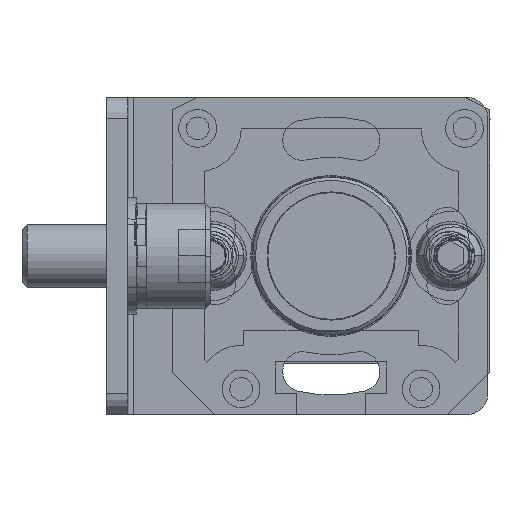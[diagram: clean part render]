
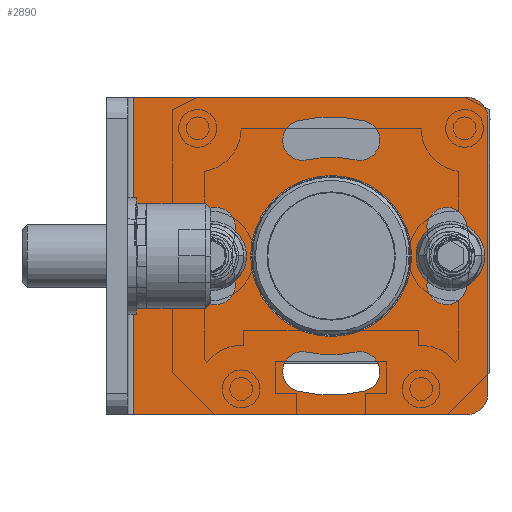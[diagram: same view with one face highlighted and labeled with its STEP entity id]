
A CAD part, front view. The second image highlights one B-rep face of the part: STEP entity #2890.
In plain terms, the highlighted planar face has unit normal (0, -1, 0).
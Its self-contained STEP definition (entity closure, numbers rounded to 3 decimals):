
#692=LINE('',#40670,#1452);
#697=LINE('',#40682,#1457);
#703=LINE('',#40698,#1463);
#707=LINE('',#40722,#1467);
#1452=VECTOR('',#13263,1.);
#1457=VECTOR('',#13272,1.);
#1463=VECTOR('',#13290,1.);
#1467=VECTOR('',#13320,1.);
#1962=PLANE('',#11082);
#2299=FACE_BOUND('',#4309,.T.);
#2300=FACE_BOUND('',#4310,.T.);
#2301=FACE_BOUND('',#4311,.T.);
#2302=FACE_BOUND('',#4312,.T.);
#2303=FACE_BOUND('',#4313,.T.);
#2304=FACE_BOUND('',#4314,.T.);
#2890=ADVANCED_FACE('',(#2299,#2300,#2301,#2302,#2303,#2304),#1962,.T.);
#4309=EDGE_LOOP('',(#6781,#6782,#6783,#6784));
#4310=EDGE_LOOP('',(#6785,#6786,#6787,#6788));
#4311=EDGE_LOOP('',(#6789,#6790,#6791,#6792));
#4312=EDGE_LOOP('',(#6793));
#4313=EDGE_LOOP('',(#6794,#6795,#6796,#6797));
#4314=EDGE_LOOP('',(#6798,#6799,#6800,#6801,#6802,#6803));
#6781=ORIENTED_EDGE('',*,*,#9603,.T.);
#6782=ORIENTED_EDGE('',*,*,#9604,.T.);
#6783=ORIENTED_EDGE('',*,*,#9542,.T.);
#6784=ORIENTED_EDGE('',*,*,#9605,.T.);
#6785=ORIENTED_EDGE('',*,*,#9606,.T.);
#6786=ORIENTED_EDGE('',*,*,#9546,.T.);
#6787=ORIENTED_EDGE('',*,*,#9607,.T.);
#6788=ORIENTED_EDGE('',*,*,#9550,.T.);
#6789=ORIENTED_EDGE('',*,*,#9608,.T.);
#6790=ORIENTED_EDGE('',*,*,#9554,.T.);
#6791=ORIENTED_EDGE('',*,*,#9609,.T.);
#6792=ORIENTED_EDGE('',*,*,#9558,.T.);
#6793=ORIENTED_EDGE('',*,*,#9563,.T.);
#6794=ORIENTED_EDGE('',*,*,#9610,.T.);
#6795=ORIENTED_EDGE('',*,*,#9611,.T.);
#6796=ORIENTED_EDGE('',*,*,#9612,.T.);
#6797=ORIENTED_EDGE('',*,*,#9564,.T.);
#6798=ORIENTED_EDGE('',*,*,#9613,.T.);
#6799=ORIENTED_EDGE('',*,*,#9614,.T.);
#6800=ORIENTED_EDGE('',*,*,#9598,.F.);
#6801=ORIENTED_EDGE('',*,*,#9584,.T.);
#6802=ORIENTED_EDGE('',*,*,#9590,.F.);
#6803=ORIENTED_EDGE('',*,*,#9615,.T.);
#8262=VERTEX_POINT('',#40580);
#8263=VERTEX_POINT('',#40581);
#8266=VERTEX_POINT('',#40589);
#8267=VERTEX_POINT('',#40590);
#8270=VERTEX_POINT('',#40598);
#8271=VERTEX_POINT('',#40599);
#8274=VERTEX_POINT('',#40607);
#8275=VERTEX_POINT('',#40608);
#8278=VERTEX_POINT('',#40616);
#8279=VERTEX_POINT('',#40617);
#8283=VERTEX_POINT('',#40627);
#8284=VERTEX_POINT('',#40630);
#8285=VERTEX_POINT('',#40631);
#8298=VERTEX_POINT('',#40667);
#8299=VERTEX_POINT('',#40669);
#8304=VERTEX_POINT('',#40681);
#8309=VERTEX_POINT('',#40699);
#8312=VERTEX_POINT('',#40709);
#8313=VERTEX_POINT('',#40710);
#8314=VERTEX_POINT('',#40718);
#8315=VERTEX_POINT('',#40720);
#8316=VERTEX_POINT('',#40723);
#8317=VERTEX_POINT('',#40724);
#9542=EDGE_CURVE('',#8262,#8263,#10244,.T.);
#9546=EDGE_CURVE('',#8266,#8267,#10246,.T.);
#9550=EDGE_CURVE('',#8270,#8271,#10248,.T.);
#9554=EDGE_CURVE('',#8274,#8275,#10250,.T.);
#9558=EDGE_CURVE('',#8278,#8279,#10252,.T.);
#9563=EDGE_CURVE('',#8283,#8283,#10255,.T.);
#9564=EDGE_CURVE('',#8284,#8285,#10256,.T.);
#9584=EDGE_CURVE('',#8298,#8299,#692,.T.);
#9590=EDGE_CURVE('',#8304,#8299,#697,.T.);
#9598=EDGE_CURVE('',#8298,#8309,#703,.T.);
#9603=EDGE_CURVE('',#8312,#8313,#10268,.T.);
#9604=EDGE_CURVE('',#8313,#8262,#10269,.T.);
#9605=EDGE_CURVE('',#8263,#8312,#10270,.T.);
#9606=EDGE_CURVE('',#8271,#8266,#10271,.T.);
#9607=EDGE_CURVE('',#8267,#8270,#10272,.T.);
#9608=EDGE_CURVE('',#8279,#8274,#10273,.T.);
#9609=EDGE_CURVE('',#8275,#8278,#10274,.T.);
#9610=EDGE_CURVE('',#8285,#8314,#10275,.T.);
#9611=EDGE_CURVE('',#8314,#8315,#10276,.T.);
#9612=EDGE_CURVE('',#8315,#8284,#10277,.T.);
#9613=EDGE_CURVE('',#8316,#8317,#707,.T.);
#9614=EDGE_CURVE('',#8317,#8309,#10278,.T.);
#9615=EDGE_CURVE('',#8304,#8316,#10279,.T.);
#10244=CIRCLE('',#11028,1.9);
#10246=CIRCLE('',#11031,13.15);
#10248=CIRCLE('',#11034,9.35);
#10250=CIRCLE('',#11037,1.9);
#10252=CIRCLE('',#11040,1.9);
#10255=CIRCLE('',#11044,7.6);
#10256=CIRCLE('',#11046,1.9);
#10268=CIRCLE('',#11070,1.9);
#10269=CIRCLE('',#11071,13.15);
#10270=CIRCLE('',#11072,9.35);
#10271=CIRCLE('',#11073,1.9);
#10272=CIRCLE('',#11074,1.9);
#10273=CIRCLE('',#11075,13.15);
#10274=CIRCLE('',#11076,9.35);
#10275=CIRCLE('',#11077,13.15);
#10276=CIRCLE('',#11078,1.9);
#10277=CIRCLE('',#11079,9.35);
#10278=CIRCLE('',#11080,2.);
#10279=CIRCLE('',#11081,2.);
#11028=AXIS2_PLACEMENT_3D('',#40579,#13179,#13180);
#11031=AXIS2_PLACEMENT_3D('',#40588,#13187,#13188);
#11034=AXIS2_PLACEMENT_3D('',#40597,#13195,#13196);
#11037=AXIS2_PLACEMENT_3D('',#40606,#13203,#13204);
#11040=AXIS2_PLACEMENT_3D('',#40615,#13211,#13212);
#11044=AXIS2_PLACEMENT_3D('',#40626,#13221,#13222);
#11046=AXIS2_PLACEMENT_3D('',#40629,#13225,#13226);
#11070=AXIS2_PLACEMENT_3D('',#40708,#13300,#13301);
#11071=AXIS2_PLACEMENT_3D('',#40711,#13302,#13303);
#11072=AXIS2_PLACEMENT_3D('',#40712,#13304,#13305);
#11073=AXIS2_PLACEMENT_3D('',#40713,#13306,#13307);
#11074=AXIS2_PLACEMENT_3D('',#40714,#13308,#13309);
#11075=AXIS2_PLACEMENT_3D('',#40715,#13310,#13311);
#11076=AXIS2_PLACEMENT_3D('',#40716,#13312,#13313);
#11077=AXIS2_PLACEMENT_3D('',#40717,#13314,#13315);
#11078=AXIS2_PLACEMENT_3D('',#40719,#13316,#13317);
#11079=AXIS2_PLACEMENT_3D('',#40721,#13318,#13319);
#11080=AXIS2_PLACEMENT_3D('',#40725,#13321,#13322);
#11081=AXIS2_PLACEMENT_3D('',#40726,#13323,#13324);
#11082=AXIS2_PLACEMENT_3D('',#40727,#13325,#13326);
#13179=DIRECTION('',(0.,1.,0.));
#13180=DIRECTION('',(0.,0.,1.));
#13187=DIRECTION('',(0.,1.,0.));
#13188=DIRECTION('',(0.,0.,1.));
#13195=DIRECTION('',(0.,-1.,0.));
#13196=DIRECTION('',(0.,0.,1.));
#13203=DIRECTION('',(0.,1.,0.));
#13204=DIRECTION('',(0.,0.,1.));
#13211=DIRECTION('',(0.,1.,0.));
#13212=DIRECTION('',(0.,0.,1.));
#13221=DIRECTION('',(0.,1.,0.));
#13222=DIRECTION('',(0.,0.,1.));
#13225=DIRECTION('',(0.,1.,0.));
#13226=DIRECTION('',(0.,0.,1.));
#13263=DIRECTION('',(0.,0.,-1.));
#13272=DIRECTION('',(-1.,0.,0.));
#13290=DIRECTION('',(1.,0.,0.));
#13300=DIRECTION('',(0.,1.,0.));
#13301=DIRECTION('',(0.,0.,1.));
#13302=DIRECTION('',(0.,1.,0.));
#13303=DIRECTION('',(0.,0.,1.));
#13304=DIRECTION('',(0.,-1.,0.));
#13305=DIRECTION('',(0.,0.,1.));
#13306=DIRECTION('',(0.,1.,0.));
#13307=DIRECTION('',(0.,0.,1.));
#13308=DIRECTION('',(0.,1.,0.));
#13309=DIRECTION('',(0.,0.,1.));
#13310=DIRECTION('',(0.,1.,0.));
#13311=DIRECTION('',(0.,0.,1.));
#13312=DIRECTION('',(0.,-1.,0.));
#13313=DIRECTION('',(0.,0.,1.));
#13314=DIRECTION('',(0.,1.,0.));
#13315=DIRECTION('',(0.,0.,1.));
#13316=DIRECTION('',(0.,1.,0.));
#13317=DIRECTION('',(0.,0.,1.));
#13318=DIRECTION('',(0.,-1.,0.));
#13319=DIRECTION('',(0.,0.,1.));
#13320=DIRECTION('',(0.,0.,1.));
#13321=DIRECTION('',(0.,-1.,0.));
#13322=DIRECTION('',(0.,0.,-1.));
#13323=DIRECTION('',(0.,-1.,0.));
#13324=DIRECTION('',(0.,0.,1.));
#13325=DIRECTION('',(0.,-1.,0.));
#13326=DIRECTION('',(-1.,0.,0.));
#40579=CARTESIAN_POINT('',(-110.921,-1368.,2.851));
#40580=CARTESIAN_POINT('',(-112.765,-1368.,3.307));
#40581=CARTESIAN_POINT('',(-109.077,-1368.,2.395));
#40588=CARTESIAN_POINT('',(-100.,-1368.,0.15));
#40589=CARTESIAN_POINT('',(-103.157,-1368.,12.915));
#40590=CARTESIAN_POINT('',(-96.843,-1368.,12.915));
#40597=CARTESIAN_POINT('',(-100.,-1368.,0.15));
#40598=CARTESIAN_POINT('',(-97.755,-1368.,9.227));
#40599=CARTESIAN_POINT('',(-102.245,-1368.,9.227));
#40606=CARTESIAN_POINT('',(-102.701,-1368.,-10.771));
#40607=CARTESIAN_POINT('',(-103.157,-1368.,-12.615));
#40608=CARTESIAN_POINT('',(-102.245,-1368.,-8.927));
#40615=CARTESIAN_POINT('',(-97.299,-1368.,-10.771));
#40616=CARTESIAN_POINT('',(-97.755,-1368.,-8.927));
#40617=CARTESIAN_POINT('',(-96.843,-1368.,-12.615));
#40626=CARTESIAN_POINT('',(-100.,-1368.,0.15));
#40627=CARTESIAN_POINT('',(-100.,-1368.,7.75));
#40629=CARTESIAN_POINT('',(-89.079,-1368.,2.851));
#40630=CARTESIAN_POINT('',(-90.923,-1368.,2.395));
#40631=CARTESIAN_POINT('',(-87.235,-1368.,3.307));
#40667=CARTESIAN_POINT('',(-118.7,-1368.,15.15));
#40669=CARTESIAN_POINT('',(-118.7,-1368.,-14.85));
#40670=CARTESIAN_POINT('',(-118.7,-1368.,15.15));
#40681=CARTESIAN_POINT('',(-87.2,-1368.,-14.85));
#40682=CARTESIAN_POINT('',(-118.7,-1368.,-14.85));
#40698=CARTESIAN_POINT('',(-118.7,-1368.,15.15));
#40699=CARTESIAN_POINT('',(-87.2,-1368.,15.15));
#40708=CARTESIAN_POINT('',(-110.921,-1368.,-2.551));
#40709=CARTESIAN_POINT('',(-109.077,-1368.,-2.095));
#40710=CARTESIAN_POINT('',(-112.765,-1368.,-3.007));
#40711=CARTESIAN_POINT('',(-100.,-1368.,0.15));
#40712=CARTESIAN_POINT('',(-100.,-1368.,0.15));
#40713=CARTESIAN_POINT('',(-102.701,-1368.,11.071));
#40714=CARTESIAN_POINT('',(-97.299,-1368.,11.071));
#40715=CARTESIAN_POINT('',(-100.,-1368.,0.15));
#40716=CARTESIAN_POINT('',(-100.,-1368.,0.15));
#40717=CARTESIAN_POINT('',(-100.,-1368.,0.15));
#40718=CARTESIAN_POINT('',(-87.235,-1368.,-3.007));
#40719=CARTESIAN_POINT('',(-89.079,-1368.,-2.551));
#40720=CARTESIAN_POINT('',(-90.923,-1368.,-2.095));
#40721=CARTESIAN_POINT('',(-100.,-1368.,0.15));
#40722=CARTESIAN_POINT('',(-85.2,-1368.,15.15));
#40723=CARTESIAN_POINT('',(-85.2,-1368.,-12.85));
#40724=CARTESIAN_POINT('',(-85.2,-1368.,13.15));
#40725=CARTESIAN_POINT('',(-87.2,-1368.,13.15));
#40726=CARTESIAN_POINT('',(-87.2,-1368.,-12.85));
#40727=CARTESIAN_POINT('',(-85.2,-1368.,15.15));
